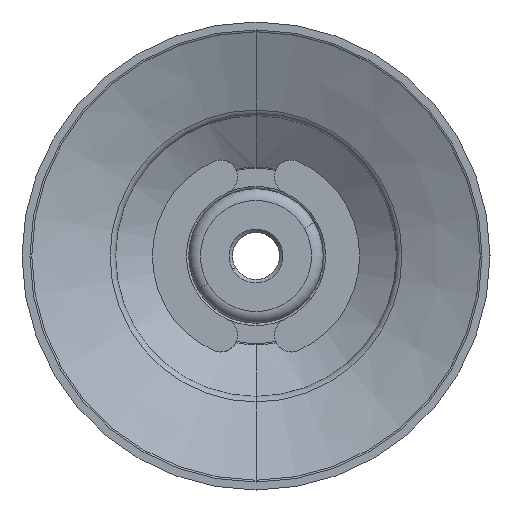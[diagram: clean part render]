
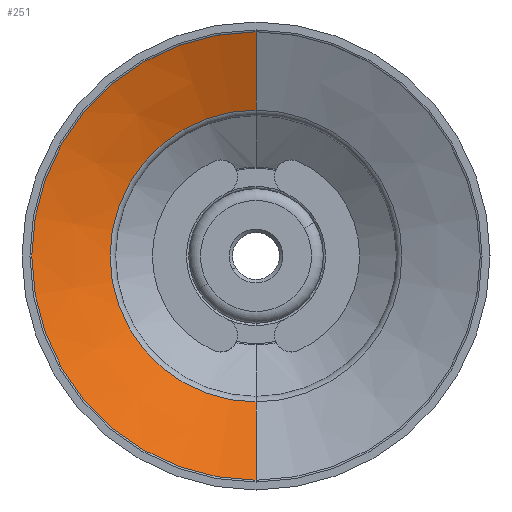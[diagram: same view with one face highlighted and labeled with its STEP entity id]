
A CAD part, front view. The second image highlights one B-rep face of the part: STEP entity #251.
In plain terms, the highlighted conical face has half-angle 67.266 degrees and reference radius 19.144 mm.
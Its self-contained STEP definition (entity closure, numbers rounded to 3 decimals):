
#8 = ORIENTED_EDGE ( 'NONE', *, *, #698, .T. ) ;
#12 = DIRECTION ( 'NONE',  ( 0., -0.386, -0.922 ) ) ;
#251 = ADVANCED_FACE ( 'NONE', ( #337 ), #4126, .F. ) ;
#254 = CARTESIAN_POINT ( 'NONE',  ( 0., -30.49, 0. ) ) ;
#337 = FACE_OUTER_BOUND ( 'NONE', #3810, .T. ) ;
#422 = VERTEX_POINT ( 'NONE', #2986 ) ;
#431 = DIRECTION ( 'NONE',  ( 0., 1., 0. ) ) ;
#482 = VERTEX_POINT ( 'NONE', #3105 ) ;
#580 = AXIS2_PLACEMENT_3D ( 'NONE', #254, #3625, #1140 ) ;
#590 = EDGE_CURVE ( 'NONE', #482, #422, #4116, .T. ) ;
#619 = VECTOR ( 'NONE', #4594, 1000. ) ;
#698 = EDGE_CURVE ( 'NONE', #482, #1026, #1372, .T. ) ;
#902 = AXIS2_PLACEMENT_3D ( 'NONE', #2901, #431, #1666 ) ;
#1026 = VERTEX_POINT ( 'NONE', #4608 ) ;
#1080 = ORIENTED_EDGE ( 'NONE', *, *, #590, .F. ) ;
#1140 = DIRECTION ( 'NONE',  ( 0., 0., -1. ) ) ;
#1372 = CIRCLE ( 'NONE', #902, 12.465 ) ;
#1666 = DIRECTION ( 'NONE',  ( 0., 0., 1. ) ) ;
#1753 = AXIS2_PLACEMENT_3D ( 'NONE', #4023, #2394, #4100 ) ;
#2362 = EDGE_CURVE ( 'NONE', #1026, #4053, #4275, .T. ) ;
#2368 = CIRCLE ( 'NONE', #1753, 19.144 ) ;
#2394 = DIRECTION ( 'NONE',  ( 0., 1., 0. ) ) ;
#2837 = CARTESIAN_POINT ( 'NONE',  ( 0., -30.49, -19.144 ) ) ;
#2901 = CARTESIAN_POINT ( 'NONE',  ( 0., -27.692, 0. ) ) ;
#2986 = CARTESIAN_POINT ( 'NONE',  ( 0., -30.49, -19.144 ) ) ;
#3063 = ORIENTED_EDGE ( 'NONE', *, *, #4413, .F. ) ;
#3105 = CARTESIAN_POINT ( 'NONE',  ( 0., -27.692, -12.465 ) ) ;
#3625 = DIRECTION ( 'NONE',  ( 0., -1., 0. ) ) ;
#3746 = CARTESIAN_POINT ( 'NONE',  ( 0., -30.49, 19.144 ) ) ;
#3810 = EDGE_LOOP ( 'NONE', ( #8, #4709, #3063, #1080 ) ) ;
#4006 = CARTESIAN_POINT ( 'NONE',  ( 0., -30.49, 19.144 ) ) ;
#4023 = CARTESIAN_POINT ( 'NONE',  ( 0., -30.49, 0. ) ) ;
#4053 = VERTEX_POINT ( 'NONE', #4006 ) ;
#4100 = DIRECTION ( 'NONE',  ( 0., 0., 1. ) ) ;
#4116 = LINE ( 'NONE', #2837, #4361 ) ;
#4126 = CONICAL_SURFACE ( 'NONE', #580, 19.144, 1.174 ) ;
#4275 = LINE ( 'NONE', #3746, #619 ) ;
#4361 = VECTOR ( 'NONE', #12, 1000. ) ;
#4413 = EDGE_CURVE ( 'NONE', #422, #4053, #2368, .T. ) ;
#4594 = DIRECTION ( 'NONE',  ( 0., -0.386, 0.922 ) ) ;
#4608 = CARTESIAN_POINT ( 'NONE',  ( 0., -27.692, 12.465 ) ) ;
#4709 = ORIENTED_EDGE ( 'NONE', *, *, #2362, .T. ) ;
